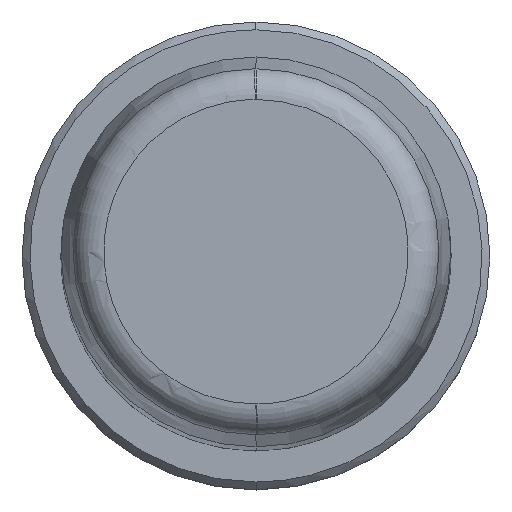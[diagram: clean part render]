
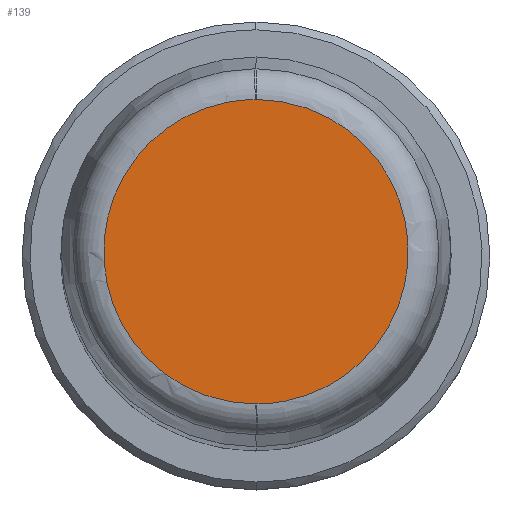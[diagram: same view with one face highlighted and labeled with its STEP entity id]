
A CAD part, top view. The second image highlights one B-rep face of the part: STEP entity #139.
In plain terms, the highlighted planar face has unit normal (0, 0, 1).
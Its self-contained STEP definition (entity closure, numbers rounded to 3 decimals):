
#52=CARTESIAN_POINT('Axis2P3D Location',(0.,0.,160.)) ;
#58=CARTESIAN_POINT('Control Point',(0.06,-9.764,160.)) ;
#59=CARTESIAN_POINT('Control Point',(0.048,-9.764,160.)) ;
#60=CARTESIAN_POINT('Control Point',(0.036,-9.764,160.)) ;
#61=CARTESIAN_POINT('Control Point',(0.024,-9.764,160.)) ;
#62=CARTESIAN_POINT('Control Point',(0.012,-9.764,160.)) ;
#63=CARTESIAN_POINT('Control Point',(0.,-9.764,160.)) ;
#64=CARTESIAN_POINT('Vertex',(0.06,-9.764,160.)) ;
#66=CARTESIAN_POINT('Vertex',(0.,-9.764,160.)) ;
#70=CARTESIAN_POINT('Control Point',(0.,9.764,160.)) ;
#71=CARTESIAN_POINT('Control Point',(0.918,9.764,160.)) ;
#72=CARTESIAN_POINT('Control Point',(1.837,9.656,160.)) ;
#73=CARTESIAN_POINT('Control Point',(2.739,9.44,160.)) ;
#74=CARTESIAN_POINT('Control Point',(4.474,8.8,160.)) ;
#75=CARTESIAN_POINT('Control Point',(6.013,7.775,160.)) ;
#76=CARTESIAN_POINT('Control Point',(6.719,7.174,160.)) ;
#77=CARTESIAN_POINT('Control Point',(7.976,5.817,160.)) ;
#78=CARTESIAN_POINT('Control Point',(8.884,4.205,160.)) ;
#79=CARTESIAN_POINT('Control Point',(9.241,3.35,160.)) ;
#80=CARTESIAN_POINT('Control Point',(9.746,1.57,160.)) ;
#81=CARTESIAN_POINT('Control Point',(9.825,-0.277,160.)) ;
#82=CARTESIAN_POINT('Control Point',(9.755,-1.202,160.)) ;
#83=CARTESIAN_POINT('Control Point',(9.4,-3.017,160.)) ;
#84=CARTESIAN_POINT('Control Point',(8.632,-4.7,160.)) ;
#85=CARTESIAN_POINT('Control Point',(8.151,-5.492,160.)) ;
#86=CARTESIAN_POINT('Control Point',(7.012,-6.949,160.)) ;
#87=CARTESIAN_POINT('Control Point',(5.565,-8.102,160.)) ;
#88=CARTESIAN_POINT('Control Point',(4.777,-8.59,160.)) ;
#89=CARTESIAN_POINT('Control Point',(3.381,-9.242,160.)) ;
#90=CARTESIAN_POINT('Control Point',(1.89,-9.609,160.)) ;
#91=CARTESIAN_POINT('Control Point',(1.284,-9.708,160.)) ;
#92=CARTESIAN_POINT('Control Point',(0.672,-9.76,160.)) ;
#93=CARTESIAN_POINT('Control Point',(0.06,-9.764,160.)) ;
#94=CARTESIAN_POINT('Vertex',(0.,9.764,160.)) ;
#98=CARTESIAN_POINT('Control Point',(-0.06,9.764,160.)) ;
#99=CARTESIAN_POINT('Control Point',(-0.048,9.764,160.)) ;
#100=CARTESIAN_POINT('Control Point',(-0.036,9.764,160.)) ;
#101=CARTESIAN_POINT('Control Point',(-0.024,9.764,160.)) ;
#102=CARTESIAN_POINT('Control Point',(-0.012,9.764,160.)) ;
#103=CARTESIAN_POINT('Control Point',(0.,9.764,160.)) ;
#104=CARTESIAN_POINT('Vertex',(-0.06,9.764,160.)) ;
#108=CARTESIAN_POINT('Control Point',(0.,-9.764,160.)) ;
#109=CARTESIAN_POINT('Control Point',(-0.918,-9.764,160.)) ;
#110=CARTESIAN_POINT('Control Point',(-1.837,-9.656,160.)) ;
#111=CARTESIAN_POINT('Control Point',(-2.739,-9.44,160.)) ;
#112=CARTESIAN_POINT('Control Point',(-4.474,-8.8,160.)) ;
#113=CARTESIAN_POINT('Control Point',(-6.013,-7.775,160.)) ;
#114=CARTESIAN_POINT('Control Point',(-6.719,-7.174,160.)) ;
#115=CARTESIAN_POINT('Control Point',(-7.976,-5.817,160.)) ;
#116=CARTESIAN_POINT('Control Point',(-8.884,-4.205,160.)) ;
#117=CARTESIAN_POINT('Control Point',(-9.241,-3.35,160.)) ;
#118=CARTESIAN_POINT('Control Point',(-9.746,-1.57,160.)) ;
#119=CARTESIAN_POINT('Control Point',(-9.825,0.277,160.)) ;
#120=CARTESIAN_POINT('Control Point',(-9.755,1.202,160.)) ;
#121=CARTESIAN_POINT('Control Point',(-9.4,3.017,160.)) ;
#122=CARTESIAN_POINT('Control Point',(-8.632,4.7,160.)) ;
#123=CARTESIAN_POINT('Control Point',(-8.151,5.492,160.)) ;
#124=CARTESIAN_POINT('Control Point',(-7.012,6.949,160.)) ;
#125=CARTESIAN_POINT('Control Point',(-5.565,8.102,160.)) ;
#126=CARTESIAN_POINT('Control Point',(-4.777,8.59,160.)) ;
#127=CARTESIAN_POINT('Control Point',(-3.381,9.242,160.)) ;
#128=CARTESIAN_POINT('Control Point',(-1.89,9.609,160.)) ;
#129=CARTESIAN_POINT('Control Point',(-1.284,9.708,160.)) ;
#130=CARTESIAN_POINT('Control Point',(-0.672,9.76,160.)) ;
#131=CARTESIAN_POINT('Control Point',(-0.06,9.764,160.)) ;
#53=DIRECTION('Axis2P3D Direction',(0.,0.,1.)) ;
#54=DIRECTION('Axis2P3D XDirection',(0.,-1.,0.)) ;
#55=AXIS2_PLACEMENT_3D('Plane Axis2P3D',#52,#53,#54) ;
#134=ORIENTED_EDGE('',*,*,#68,.F.) ;
#135=ORIENTED_EDGE('',*,*,#96,.F.) ;
#136=ORIENTED_EDGE('',*,*,#106,.F.) ;
#137=ORIENTED_EDGE('',*,*,#132,.F.) ;
#139=ADVANCED_FACE('MANIFOLD_SOLID_BREP #450',(#138),#56,.T.) ;
#57=B_SPLINE_CURVE_WITH_KNOTS('',5,(#58,#59,#60,#61,#62,#63),.UNSPECIFIED.,.F.,.U.,(6,6),(43.294,43.379),.UNSPECIFIED.) ;
#69=B_SPLINE_CURVE_WITH_KNOTS('',5,(#70,#71,#72,#73,#74,#75,#76,#77,#78,#79,#80,#81,#82,#83,#84,#85,#86,#87,#88,#89,#90,#91,#92,#93),.UNSPECIFIED.,.F.,.U.,(6,3,3,3,3,3,3,6),(0.,6.495,12.989,19.484,25.978,32.473,38.967,43.294),.UNSPECIFIED.) ;
#97=B_SPLINE_CURVE_WITH_KNOTS('',5,(#98,#99,#100,#101,#102,#103),.UNSPECIFIED.,.F.,.U.,(6,6),(43.294,43.379),.UNSPECIFIED.) ;
#107=B_SPLINE_CURVE_WITH_KNOTS('',5,(#108,#109,#110,#111,#112,#113,#114,#115,#116,#117,#118,#119,#120,#121,#122,#123,#124,#125,#126,#127,#128,#129,#130,#131),.UNSPECIFIED.,.F.,.U.,(6,3,3,3,3,3,3,6),(0.,6.495,12.989,19.484,25.978,32.473,38.967,43.294),.UNSPECIFIED.) ;
#68=EDGE_CURVE('',#65,#67,#57,.T.) ;
#96=EDGE_CURVE('',#95,#65,#69,.T.) ;
#106=EDGE_CURVE('',#105,#95,#97,.T.) ;
#132=EDGE_CURVE('',#67,#105,#107,.T.) ;
#133=EDGE_LOOP('',(#134,#135,#136,#137)) ;
#138=FACE_OUTER_BOUND('',#133,.T.) ;
#56=PLANE('Plane',#55) ;
#65=VERTEX_POINT('',#64) ;
#67=VERTEX_POINT('',#66) ;
#95=VERTEX_POINT('',#94) ;
#105=VERTEX_POINT('',#104) ;
